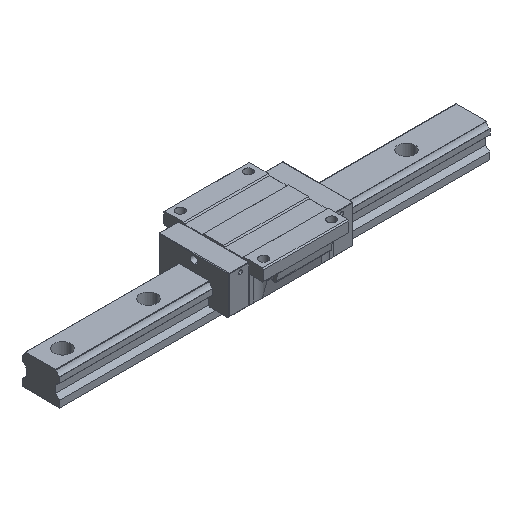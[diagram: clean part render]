
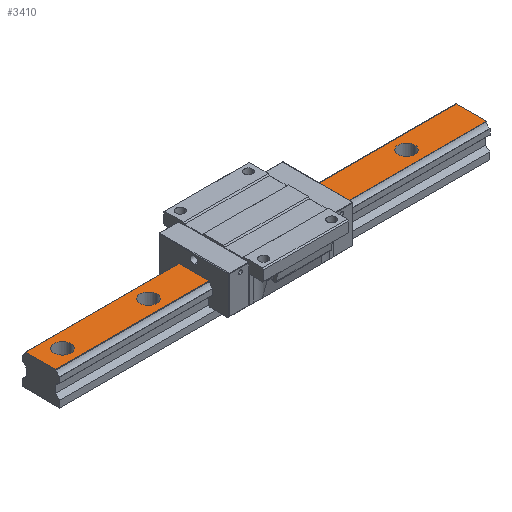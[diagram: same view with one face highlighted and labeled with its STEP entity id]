
A CAD part, isometric view. The second image highlights one B-rep face of the part: STEP entity #3410.
In plain terms, the highlighted planar face has unit normal (0, 0, 1).
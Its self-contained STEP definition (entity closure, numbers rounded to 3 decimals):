
#29 = EDGE_CURVE ( 'NONE', #3581, #734, #4352, .T. ) ;
#62 = DIRECTION ( 'NONE',  ( 0., 0., 1. ) ) ;
#128 = CARTESIAN_POINT ( 'NONE',  ( -41.5, 0., 44. ) ) ;
#164 = ORIENTED_EDGE ( 'NONE', *, *, #2947, .F. ) ;
#228 = EDGE_CURVE ( 'NONE', #5424, #251, #5376, .T. ) ;
#236 = AXIS2_PLACEMENT_3D ( 'NONE', #2779, #3743, #269 ) ;
#251 = VERTEX_POINT ( 'NONE', #3382 ) ;
#269 = DIRECTION ( 'NONE',  ( 1., 0., 0. ) ) ;
#274 = DIRECTION ( 'NONE',  ( 0., 0., 1. ) ) ;
#311 = CIRCLE ( 'NONE', #236, 11.5 ) ;
#366 = FACE_BOUND ( 'NONE', #2768, .T. ) ;
#368 = EDGE_LOOP ( 'NONE', ( #2897, #1678 ) ) ;
#397 = DIRECTION ( 'NONE',  ( 0., 1., 0. ) ) ;
#468 = DIRECTION ( 'NONE',  ( 0., 0., 1. ) ) ;
#624 = CARTESIAN_POINT ( 'NONE',  ( -138.5, 0., 44. ) ) ;
#691 = CIRCLE ( 'NONE', #1111, 11.5 ) ;
#734 = VERTEX_POINT ( 'NONE', #1157 ) ;
#836 = DIRECTION ( 'NONE',  ( 1., 0., 0. ) ) ;
#864 = VERTEX_POINT ( 'NONE', #1040 ) ;
#874 = ORIENTED_EDGE ( 'NONE', *, *, #2573, .T. ) ;
#901 = DIRECTION ( 'NONE',  ( 1., 0., 0. ) ) ;
#943 = ORIENTED_EDGE ( 'NONE', *, *, #2414, .F. ) ;
#990 = CIRCLE ( 'NONE', #4698, 11.5 ) ;
#1021 = PLANE ( 'NONE',  #4071 ) ;
#1040 = CARTESIAN_POINT ( 'NONE',  ( -18.5, 0., 44. ) ) ;
#1070 = ORIENTED_EDGE ( 'NONE', *, *, #5329, .F. ) ;
#1078 = ORIENTED_EDGE ( 'NONE', *, *, #3321, .F. ) ;
#1111 = AXIS2_PLACEMENT_3D ( 'NONE', #2868, #6355, #3303 ) ;
#1157 = CARTESIAN_POINT ( 'NONE',  ( -300., 20.932, 44. ) ) ;
#1180 = CARTESIAN_POINT ( 'NONE',  ( -258.5, 0., 44. ) ) ;
#1187 = DIRECTION ( 'NONE',  ( 1., 0., 0. ) ) ;
#1189 = CARTESIAN_POINT ( 'NONE',  ( -281.5, 0., 44. ) ) ;
#1337 = CARTESIAN_POINT ( 'NONE',  ( 300., -20.932, 44. ) ) ;
#1485 = DIRECTION ( 'NONE',  ( 0., 0., -1. ) ) ;
#1638 = EDGE_CURVE ( 'NONE', #3589, #2527, #311, .T. ) ;
#1678 = ORIENTED_EDGE ( 'NONE', *, *, #6405, .F. ) ;
#1818 = DIRECTION ( 'NONE',  ( 1., 0., 0. ) ) ;
#1904 = CARTESIAN_POINT ( 'NONE',  ( 198.5, 0., 44. ) ) ;
#1927 = CIRCLE ( 'NONE', #4276, 11.5 ) ;
#1957 = CARTESIAN_POINT ( 'NONE',  ( 90., 0., 44. ) ) ;
#2052 = CARTESIAN_POINT ( 'NONE',  ( 78.5, 0., 44. ) ) ;
#2120 = EDGE_CURVE ( 'NONE', #4035, #6022, #4319, .T. ) ;
#2259 = AXIS2_PLACEMENT_3D ( 'NONE', #4942, #468, #901 ) ;
#2258 = CARTESIAN_POINT ( 'NONE',  ( -150., 0., 44. ) ) ;
#2280 = CARTESIAN_POINT ( 'NONE',  ( -270., 0., 44. ) ) ;
#2380 = CARTESIAN_POINT ( 'NONE',  ( 300., -20.932, 44. ) ) ;
#2414 = EDGE_CURVE ( 'NONE', #3559, #864, #5678, .T. ) ;
#2465 = CARTESIAN_POINT ( 'NONE',  ( 300., -20.932, 44. ) ) ;
#2471 = FACE_BOUND ( 'NONE', #368, .T. ) ;
#2527 = VERTEX_POINT ( 'NONE', #1904 ) ;
#2573 = EDGE_CURVE ( 'NONE', #734, #5744, #5519, .T. ) ;
#2673 = AXIS2_PLACEMENT_3D ( 'NONE', #3028, #4069, #6122 ) ;
#2763 = CARTESIAN_POINT ( 'NONE',  ( 221.5, 0., 44. ) ) ;
#2768 = EDGE_LOOP ( 'NONE', ( #3545, #1070 ) ) ;
#2779 = CARTESIAN_POINT ( 'NONE',  ( 210., 0., 44. ) ) ;
#2868 = CARTESIAN_POINT ( 'NONE',  ( -30., 0., 44. ) ) ;
#2872 = AXIS2_PLACEMENT_3D ( 'NONE', #4474, #3971, #5995 ) ;
#2897 = ORIENTED_EDGE ( 'NONE', *, *, #5434, .F. ) ;
#2947 = EDGE_CURVE ( 'NONE', #6022, #4035, #6065, .T. ) ;
#2955 = CARTESIAN_POINT ( 'NONE',  ( -300., -20.932, 44. ) ) ;
#2995 = FACE_BOUND ( 'NONE', #3909, .T. ) ;
#3028 = CARTESIAN_POINT ( 'NONE',  ( 90., 0., 44. ) ) ;
#3159 = CARTESIAN_POINT ( 'NONE',  ( 300., -20.932, 44. ) ) ;
#3175 = DIRECTION ( 'NONE',  ( 1., 0., 0. ) ) ;
#3245 = AXIS2_PLACEMENT_3D ( 'NONE', #4296, #3821, #1187 ) ;
#3303 = DIRECTION ( 'NONE',  ( 1., 0., 0. ) ) ;
#3317 = ORIENTED_EDGE ( 'NONE', *, *, #5839, .F. ) ;
#3321 = EDGE_CURVE ( 'NONE', #864, #3559, #691, .T. ) ;
#3349 = DIRECTION ( 'NONE',  ( 0., 0., 1. ) ) ;
#3382 = CARTESIAN_POINT ( 'NONE',  ( 101.5, 0., 44. ) ) ;
#3410 = ADVANCED_FACE ( 'NONE', ( #366, #4407, #5560, #2471, #2995, #5527 ), #1021, .F. ) ;
#3420 = VECTOR ( 'NONE', #5876, 1000. ) ;
#3545 = ORIENTED_EDGE ( 'NONE', *, *, #1638, .F. ) ;
#3554 = VERTEX_POINT ( 'NONE', #624 ) ;
#3555 = ORIENTED_EDGE ( 'NONE', *, *, #4731, .F. ) ;
#3559 = VERTEX_POINT ( 'NONE', #128 ) ;
#3561 = ORIENTED_EDGE ( 'NONE', *, *, #2120, .F. ) ;
#3581 = VERTEX_POINT ( 'NONE', #5653 ) ;
#3589 = VERTEX_POINT ( 'NONE', #2763 ) ;
#3615 = EDGE_LOOP ( 'NONE', ( #1078, #943 ) ) ;
#3621 = CIRCLE ( 'NONE', #2673, 11.5 ) ;
#3743 = DIRECTION ( 'NONE',  ( 0., 0., 1. ) ) ;
#3818 = ORIENTED_EDGE ( 'NONE', *, *, #228, .F. ) ;
#3821 = DIRECTION ( 'NONE',  ( 0., 0., 1. ) ) ;
#3845 = EDGE_CURVE ( 'NONE', #6167, #5744, #4059, .T. ) ;
#3847 = CARTESIAN_POINT ( 'NONE',  ( 300., 20.932, 44. ) ) ;
#3909 = EDGE_LOOP ( 'NONE', ( #3561, #164 ) ) ;
#3971 = DIRECTION ( 'NONE',  ( 0., 0., 1. ) ) ;
#3984 = VECTOR ( 'NONE', #4287, 1000. ) ;
#4035 = VERTEX_POINT ( 'NONE', #1180 ) ;
#4059 = LINE ( 'NONE', #3159, #4605 ) ;
#4069 = DIRECTION ( 'NONE',  ( 0., 0., 1. ) ) ;
#4071 = AXIS2_PLACEMENT_3D ( 'NONE', #2380, #1485, #397 ) ;
#4276 = AXIS2_PLACEMENT_3D ( 'NONE', #4675, #62, #3175 ) ;
#4287 = DIRECTION ( 'NONE',  ( -1., 0., 0. ) ) ;
#4296 = CARTESIAN_POINT ( 'NONE',  ( -30., 0., 44. ) ) ;
#4319 = CIRCLE ( 'NONE', #6328, 11.5 ) ;
#4349 = VECTOR ( 'NONE', #5317, 1000. ) ;
#4352 = LINE ( 'NONE', #3847, #3984 ) ;
#4407 = FACE_BOUND ( 'NONE', #6417, .T. ) ;
#4474 = CARTESIAN_POINT ( 'NONE',  ( 210., 0., 44. ) ) ;
#4521 = AXIS2_PLACEMENT_3D ( 'NONE', #1957, #3349, #6439 ) ;
#4605 = VECTOR ( 'NONE', #4658, 1000. ) ;
#4651 = CARTESIAN_POINT ( 'NONE',  ( -161.5, 0., 44. ) ) ;
#4658 = DIRECTION ( 'NONE',  ( -1., 0., 0. ) ) ;
#4675 = CARTESIAN_POINT ( 'NONE',  ( -150., 0., 44. ) ) ;
#4679 = ORIENTED_EDGE ( 'NONE', *, *, #29, .T. ) ;
#4698 = AXIS2_PLACEMENT_3D ( 'NONE', #2258, #274, #836 ) ;
#4731 = EDGE_CURVE ( 'NONE', #3581, #6167, #5837, .T. ) ;
#4942 = CARTESIAN_POINT ( 'NONE',  ( -270., 0., 44. ) ) ;
#5071 = VERTEX_POINT ( 'NONE', #4651 ) ;
#5317 = DIRECTION ( 'NONE',  ( 0., -1., 0. ) ) ;
#5329 = EDGE_CURVE ( 'NONE', #2527, #3589, #5948, .T. ) ;
#5376 = CIRCLE ( 'NONE', #4521, 11.5 ) ;
#5424 = VERTEX_POINT ( 'NONE', #2052 ) ;
#5434 = EDGE_CURVE ( 'NONE', #3554, #5071, #1927, .T. ) ;
#5519 = LINE ( 'NONE', #2955, #3420 ) ;
#5527 = FACE_OUTER_BOUND ( 'NONE', #5548, .T. ) ;
#5548 = EDGE_LOOP ( 'NONE', ( #874, #5810, #3555, #4679 ) ) ;
#5560 = FACE_BOUND ( 'NONE', #3615, .T. ) ;
#5653 = CARTESIAN_POINT ( 'NONE',  ( 300., 20.932, 44. ) ) ;
#5678 = CIRCLE ( 'NONE', #3245, 11.5 ) ;
#5744 = VERTEX_POINT ( 'NONE', #6459 ) ;
#5810 = ORIENTED_EDGE ( 'NONE', *, *, #3845, .F. ) ;
#5837 = LINE ( 'NONE', #1337, #4349 ) ;
#5839 = EDGE_CURVE ( 'NONE', #251, #5424, #3621, .T. ) ;
#5876 = DIRECTION ( 'NONE',  ( 0., -1., 0. ) ) ;
#5948 = CIRCLE ( 'NONE', #2872, 11.5 ) ;
#5995 = DIRECTION ( 'NONE',  ( 1., 0., 0. ) ) ;
#6022 = VERTEX_POINT ( 'NONE', #1189 ) ;
#6065 = CIRCLE ( 'NONE', #2259, 11.5 ) ;
#6122 = DIRECTION ( 'NONE',  ( 1., 0., 0. ) ) ;
#6167 = VERTEX_POINT ( 'NONE', #2465 ) ;
#6328 = AXIS2_PLACEMENT_3D ( 'NONE', #2280, #6354, #1818 ) ;
#6354 = DIRECTION ( 'NONE',  ( 0., 0., 1. ) ) ;
#6355 = DIRECTION ( 'NONE',  ( 0., 0., 1. ) ) ;
#6405 = EDGE_CURVE ( 'NONE', #5071, #3554, #990, .T. ) ;
#6417 = EDGE_LOOP ( 'NONE', ( #3317, #3818 ) ) ;
#6439 = DIRECTION ( 'NONE',  ( 1., 0., 0. ) ) ;
#6459 = CARTESIAN_POINT ( 'NONE',  ( -300., -20.932, 44. ) ) ;
